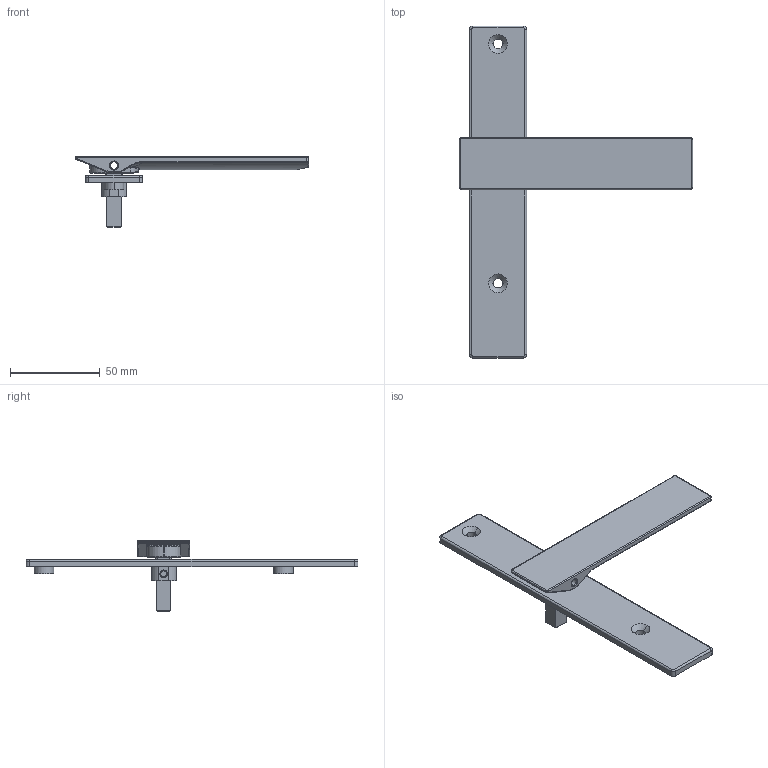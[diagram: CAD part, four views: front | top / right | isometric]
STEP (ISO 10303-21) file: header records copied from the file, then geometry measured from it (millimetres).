
FILE_DESCRIPTION (( 'STEP AP203' ), '1' );
FILE_NAME ('TPL-H-001-B 22Apr2026.STEP', '2026-04-22T03:52:03', ( '' ), ( '' ), 'SwSTEP 2.0', 'SolidWorks 2023', '' );
FILE_SCHEMA (( 'CONFIG_CONTROL_DESIGN' ));
Length unit declared in the file: millimetre
Products named in the file (6): Copy of Escutcheon plate unkeyed 185mm - simplified^TPGen2 handle non-keyed SS - simplified; Copy of LKC-584 Pivot body zinc - simplified^TPGen2 handle non-keyed SS - simplified; Copy of LKC-586 Spindle square 8mm with M4 hole - simplified^TPGen2 handle non-keyed SS - simplified_25mm; Copy of LKC-585 Rotator body zinc - simplified^TPGen2 handle non-keyed SS - simplified; Copy of LKC-506 Swing handle SS - simplified^TPGen2 handle non-keyed SS - simplified; TPL-H-001-B 22Apr2026
Assembly tree (5 placements, depth 2):
  TPL-H-001-B 22Apr2026
    Copy of Escutcheon plate unkeyed 185mm - simplified^TPGen2 handle non-keyed SS - simplified
    Copy of LKC-586 Spindle square 8mm with M4 hole - simplified^TPGen2 handle non-keyed SS - simplified_25mm
    Copy of LKC-584 Pivot body zinc - simplified^TPGen2 handle non-keyed SS - simplified
    Copy of LKC-585 Rotator body zinc - simplified^TPGen2 handle non-keyed SS - simplified
    Copy of LKC-506 Swing handle SS - simplified^TPGen2 handle non-keyed SS - simplified
Bounding box: 130 x 185.15 x 39.55 mm (x, y, z)
Volume: 48105.9 mm3; surface area: 27284.3 mm2
Topology: 5 solids, 5 shells, 285 faces, 678 edges, 408 vertices
Faces by surface type: cylinder 105, plane 78, bspline 44, torus 36, cone 20, sphere 2
Entity records: 9836 total; most frequent: CARTESIAN_POINT 2865, ORIENTED_EDGE 1352, DIRECTION 1333, EDGE_CURVE 676, AXIS2_PLACEMENT_3D 528, VERTEX_POINT 408, EDGE_LOOP 314, FACE_OUTER_BOUND 285
